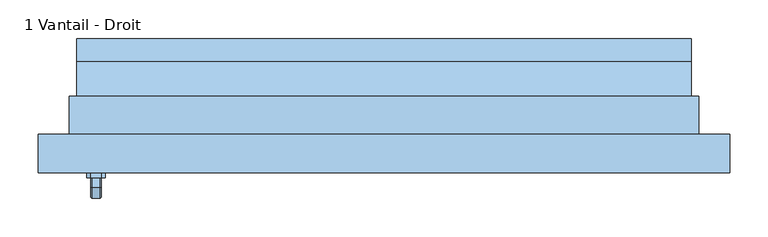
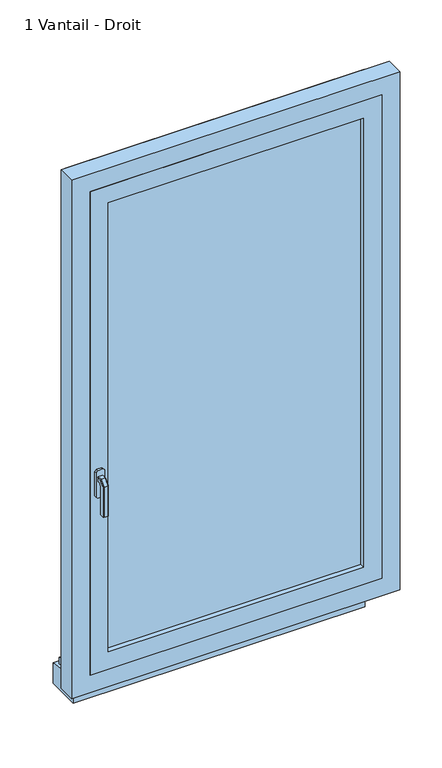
"""IFC4 building model written with IfcOpenShell, lengths in millimetres: window geometry, 1 Vantail - Droit : 0.80m x 1.45m - Appui Béton."""

from ifc_helpers import new_model, si_unit, frame, origin, place, context, project, spatial, polyline, outline, extrude, faceted_brep, source, transform, mapped, element, save


def window_1_vantail_droit_db0ce4d6(model_context):
    return source(origin(), model_context, "Body", "SolidModel", [
        faceted_brep([(-369.3539903, -86.0, 1422.0339292), (-367.9660708, -86.0, 1420.6460097), (-367.9660708, -86.0, 1409.3323012), (-369.3323012, -86.0, 1407.9660708), (-380.6676988, -86.0, 1407.9660708), (-382.0339292, -86.0, 1409.3323012), (-382.0339292, -86.0, 1420.6460097), (-380.6460097, -86.0, 1422.0339292), (-369.3539903, -98.9135489, 1422.0339292), (-367.9660708, -98.3386538, 1420.6460097), (-367.9660708, -111.6460097, 1407.3386538), (-367.9660708, -111.6460097, 1320.0), (-367.9660708, -100.3323012, 1320.0), (-367.9660708, -100.3323012, 1402.6523623), (-367.9660708, -93.6523623, 1409.3323012), (-369.3323012, -93.0864511, 1407.9660708), (-380.6676988, -93.0864511, 1407.9660708), (-382.0339292, -93.6523623, 1409.3323012), (-382.0339292, -100.3323012, 1402.6523623), (-382.0339292, -100.3323012, 1320.0), (-382.0339292, -111.6460097, 1320.0), (-382.0339292, -111.6460097, 1407.3386538), (-382.0339292, -98.3386538, 1420.6460097), (-380.6460097, -98.9135489, 1422.0339292), (-369.3539903, -113.0339292, 1407.9135489), (-369.3323012, -98.9660708, 1402.0864511), (-380.6676988, -98.9660708, 1402.0864511), (-380.6460097, -113.0339292, 1407.9135489), (-369.3539903, -113.0339292, 1320.0), (-380.6460097, -113.0339292, 1320.0), (-380.6676988, -98.9660708, 1320.0), (-369.3323012, -98.9660708, 1320.0)], [[[0, 1, 2, 3, 4, 5, 6, 7]], [[1, 0, 8, 9]], [[2, 1, 9, 10, 11, 12, 13, 14]], [[3, 2, 14, 15]], [[4, 3, 15, 16]], [[5, 4, 16, 17]], [[6, 5, 17, 18, 19, 20, 21, 22]], [[7, 6, 22, 23]], [[0, 7, 23, 8]], [[9, 8, 24, 10]], [[15, 14, 13, 25]], [[16, 15, 25, 26]], [[17, 16, 26, 18]], [[23, 22, 21, 27]], [[8, 23, 27, 24]], [[28, 29, 20, 19, 30, 31, 12, 11]], [[10, 24, 28, 11]], [[25, 13, 12, 31]], [[26, 25, 31, 30]], [[18, 26, 30, 19]], [[27, 21, 20, 29]], [[24, 27, 29, 28]]]),
        extrude(outline(polyline([(1440.0, -368.0), (1440.0, -382.0), (1435.0, -387.0), (1365.0, -387.0), (1360.0, -382.0), (1360.0, -368.0), (1365.0, -363.0), (1435.0, -363.0), (1440.0, -368.0)])), frame((0.0, -86.0, 0.0), z_axis=(0.0, 1.0, 0.0), x_axis=(0.0, 0.0, 1.0)), (0.0, 0.0, 1.0), 6.0),
        extrude(outline(polyline([(0.0, 800.0), (50.0, 800.0), (50.0, 785.0), (95.0, 780.2703094), (95.0, 720.0), (0.0, 720.0), (0.0, 800.0)])), frame((-400.0, 0.0, 0.0), z_axis=(1.0, 0.0, 0.0), x_axis=(0.0, 1.0, 0.0)), (0.0, 0.0, 1.0), 800.0),
        extrude(outline(polyline([(-350.0, -54.0), (350.0, -54.0), (350.0, -66.0), (-350.0, -66.0), (-350.0, -54.0)])), frame((0.0, 0.0, 900.0), z_axis=(0.0, 0.0, 1.0), x_axis=(1.0, 0.0, 0.0)), (0.0, 0.0, 1.0), 1300.0),
        extrude(outline(polyline([(850.0, 400.0), (2250.0, 400.0), (2250.0, -400.0), (850.0, -400.0), (850.0, 400.0)]), holes=[polyline([(900.0, -350.0), (2200.0, -350.0), (2200.0, 350.0), (900.0, 350.0), (900.0, -350.0)])]), frame((0.0, -80.0, 0.0), z_axis=(0.0, 1.0, 0.0), x_axis=(0.0, 0.0, 1.0)), (0.0, 0.0, 1.0), 40.0),
        faceted_brep([(-450.0, -80.0, 800.0), (-450.0, -30.0, 800.0), (-400.0, -30.0, 800.0), (-400.0, 55.0, 800.0), (400.0, 55.0, 800.0), (400.0, -30.0, 800.0), (450.0, -30.0, 800.0), (450.0, -80.0, 800.0), (-450.0, -80.0, 2300.0), (-450.0, -30.0, 2300.0), (450.0, -30.0, 2300.0), (400.0, -30.0, 839.3761425), (-400.0, -30.0, 839.3761425), (-385.0, -30.0, 2235.0), (-385.0, -30.0, 865.0), (385.0, -30.0, 865.0), (385.0, -30.0, 2235.0), (-400.0, 65.0, 813.9209692), (-400.0, 65.0, 795.0), (-400.0, 55.0, 795.0), (400.0, 55.0, 795.0), (400.0, 65.0, 795.0), (400.0, 65.0, 813.9209692), (450.0, -80.0, 2300.0), (400.0, -80.0, 2250.0), (400.0, -80.0, 850.0), (-400.0, -80.0, 850.0), (-400.0, -80.0, 2250.0), (-385.0, -40.0, 2235.0), (-385.0, -40.0, 865.0), (385.0, -40.0, 865.0), (385.0, -40.0, 2235.0), (400.0, -40.0, 2250.0), (-400.0, -40.0, 2250.0), (-400.0, -40.0, 850.0), (400.0, -40.0, 850.0)], [[[0, 1, 2, 3, 4, 5, 6, 7]], [[1, 0, 8, 9]], [[1, 9, 10, 6, 5, 11, 12, 2], [13, 14, 15, 16]], [[12, 17, 18, 19, 3, 2]], [[3, 19, 20, 4]], [[4, 20, 21, 22, 11, 5]], [[6, 10, 23, 7]], [[0, 7, 23, 8], [24, 25, 26, 27]], [[13, 28, 29, 14]], [[29, 30, 15, 14]], [[31, 16, 15, 30]], [[17, 12, 11, 22]], [[32, 33, 34, 35], [28, 31, 30, 29]], [[34, 33, 27, 26]], [[26, 25, 35, 34]], [[24, 32, 35, 25]], [[18, 17, 22, 21]], [[19, 18, 21, 20]], [[13, 16, 31, 28]], [[33, 32, 24, 27]], [[10, 9, 8, 23]]]),
        extrude(outline(polyline([(800.0, -410.0), (800.0, -400.0), (2250.0, -400.0), (2250.0, 400.0), (800.0, 400.0), (800.0, 410.0), (2260.0, 410.0), (2260.0, -410.0), (800.0, -410.0)])), frame((0.0, -30.0, 0.0), z_axis=(0.0, 1.0, 0.0), x_axis=(0.0, 0.0, 1.0)), (0.0, 0.0, 1.0), 50.0),
    ])


if __name__ == "__main__":
    model = new_model("IFC4")
    model_context = context("Model", 3, world=origin())
    ifc_project = project(units=[si_unit("LENGTHUNIT", "METRE", prefix="MILLI")], contexts=[model_context])
    site = spatial("IfcSite", under=ifc_project)
    building = spatial("IfcBuilding", under=site)
    placement = place(None, origin())
    window_1_vantail_droit_shape = window_1_vantail_droit_db0ce4d6(model_context)
    element("IfcWindow", 1, ObjectType="1 Vantail - Droit : 0.80m x 1.45m - Appui Béton", at=placement, inside=building, context=model_context, shape_type="MappedRepresentation", body=[
        mapped(window_1_vantail_droit_shape, transform((0.0, 0.0, 0.0), x_axis=(1.0, 0.0, 0.0), y_axis=(0.0, 1.0, 0.0), z_axis=(0.0, 0.0, 1.0))),
    ])
    save(model, "model.ifc")
